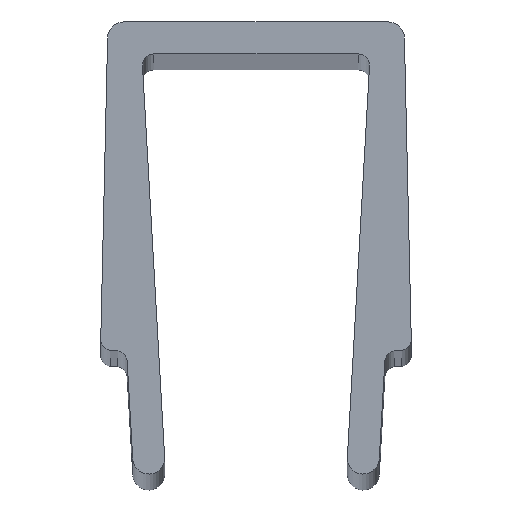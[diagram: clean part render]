
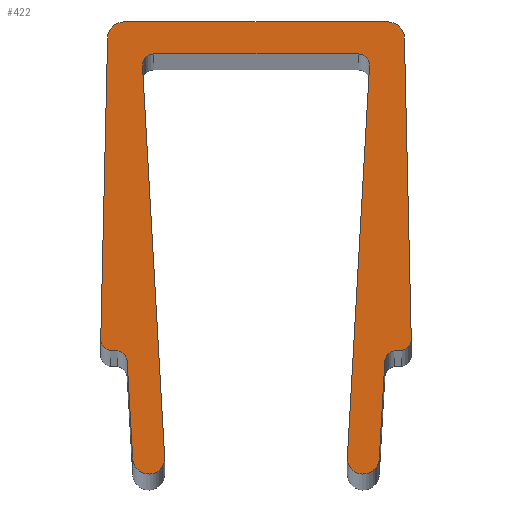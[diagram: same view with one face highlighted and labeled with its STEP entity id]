
A CAD part, top view. The second image highlights one B-rep face of the part: STEP entity #422.
In plain terms, the highlighted planar face has unit normal (0, 0, 1).
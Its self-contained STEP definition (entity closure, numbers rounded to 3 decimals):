
#26=PLANE('',#466);
#48=FACE_OUTER_BOUND('',#70,.T.);
#70=EDGE_LOOP('',(#371,#372,#373,#374,#375,#376,#377,#378,#379,#380,#381,
#382,#383,#384,#385,#386,#387,#388,#389,#390));
#73=LINE('',#605,#113);
#77=LINE('',#617,#117);
#81=LINE('',#629,#121);
#85=LINE('',#641,#125);
#89=LINE('',#653,#129);
#93=LINE('',#665,#133);
#97=LINE('',#677,#137);
#101=LINE('',#689,#141);
#105=LINE('',#701,#145);
#109=LINE('',#712,#149);
#113=VECTOR('',#479,6.595);
#117=VECTOR('',#491,0.165);
#121=VECTOR('',#503,2.145);
#125=VECTOR('',#515,8.58);
#129=VECTOR('',#527,4.471);
#133=VECTOR('',#539,8.58);
#137=VECTOR('',#551,2.145);
#141=VECTOR('',#563,0.165);
#145=VECTOR('',#575,6.595);
#149=VECTOR('',#587,5.8);
#151=CIRCLE('',#426,0.35);
#153=CIRCLE('',#430,0.25);
#155=CIRCLE('',#434,0.25);
#157=CIRCLE('',#438,0.35);
#159=CIRCLE('',#442,0.25);
#161=CIRCLE('',#446,0.25);
#163=CIRCLE('',#450,0.35);
#165=CIRCLE('',#454,0.25);
#167=CIRCLE('',#458,0.25);
#169=CIRCLE('',#462,0.35);
#171=VERTEX_POINT('',#595);
#172=VERTEX_POINT('',#596);
#175=VERTEX_POINT('',#604);
#177=VERTEX_POINT('',#610);
#179=VERTEX_POINT('',#616);
#181=VERTEX_POINT('',#622);
#183=VERTEX_POINT('',#628);
#185=VERTEX_POINT('',#634);
#187=VERTEX_POINT('',#640);
#189=VERTEX_POINT('',#646);
#191=VERTEX_POINT('',#652);
#193=VERTEX_POINT('',#658);
#195=VERTEX_POINT('',#664);
#197=VERTEX_POINT('',#670);
#199=VERTEX_POINT('',#676);
#201=VERTEX_POINT('',#682);
#203=VERTEX_POINT('',#688);
#205=VERTEX_POINT('',#694);
#207=VERTEX_POINT('',#700);
#209=VERTEX_POINT('',#706);
#211=EDGE_CURVE('',#171,#172,#151,.T.);
#215=EDGE_CURVE('',#175,#171,#73,.T.);
#218=EDGE_CURVE('',#177,#175,#153,.T.);
#221=EDGE_CURVE('',#179,#177,#77,.T.);
#224=EDGE_CURVE('',#181,#179,#155,.T.);
#227=EDGE_CURVE('',#183,#181,#81,.T.);
#230=EDGE_CURVE('',#185,#183,#157,.T.);
#233=EDGE_CURVE('',#187,#185,#85,.T.);
#236=EDGE_CURVE('',#189,#187,#159,.T.);
#239=EDGE_CURVE('',#191,#189,#89,.T.);
#242=EDGE_CURVE('',#193,#191,#161,.T.);
#245=EDGE_CURVE('',#195,#193,#93,.T.);
#248=EDGE_CURVE('',#197,#195,#163,.T.);
#251=EDGE_CURVE('',#199,#197,#97,.T.);
#254=EDGE_CURVE('',#201,#199,#165,.T.);
#257=EDGE_CURVE('',#203,#201,#101,.T.);
#260=EDGE_CURVE('',#205,#203,#167,.T.);
#263=EDGE_CURVE('',#207,#205,#105,.T.);
#266=EDGE_CURVE('',#209,#207,#169,.T.);
#269=EDGE_CURVE('',#172,#209,#109,.T.);
#371=ORIENTED_EDGE('',*,*,#269,.F.);
#372=ORIENTED_EDGE('',*,*,#211,.F.);
#373=ORIENTED_EDGE('',*,*,#215,.F.);
#374=ORIENTED_EDGE('',*,*,#218,.F.);
#375=ORIENTED_EDGE('',*,*,#221,.F.);
#376=ORIENTED_EDGE('',*,*,#224,.F.);
#377=ORIENTED_EDGE('',*,*,#227,.F.);
#378=ORIENTED_EDGE('',*,*,#230,.F.);
#379=ORIENTED_EDGE('',*,*,#233,.F.);
#380=ORIENTED_EDGE('',*,*,#236,.F.);
#381=ORIENTED_EDGE('',*,*,#239,.F.);
#382=ORIENTED_EDGE('',*,*,#242,.F.);
#383=ORIENTED_EDGE('',*,*,#245,.F.);
#384=ORIENTED_EDGE('',*,*,#248,.F.);
#385=ORIENTED_EDGE('',*,*,#251,.F.);
#386=ORIENTED_EDGE('',*,*,#254,.F.);
#387=ORIENTED_EDGE('',*,*,#257,.F.);
#388=ORIENTED_EDGE('',*,*,#260,.F.);
#389=ORIENTED_EDGE('',*,*,#263,.F.);
#390=ORIENTED_EDGE('',*,*,#266,.F.);
#422=ADVANCED_FACE('',(#48),#26,.T.);
#426=AXIS2_PLACEMENT_3D('',#597,#471,#472);
#430=AXIS2_PLACEMENT_3D('',#611,#484,#485);
#434=AXIS2_PLACEMENT_3D('',#623,#496,#497);
#438=AXIS2_PLACEMENT_3D('',#635,#508,#509);
#442=AXIS2_PLACEMENT_3D('',#647,#520,#521);
#446=AXIS2_PLACEMENT_3D('',#659,#532,#533);
#450=AXIS2_PLACEMENT_3D('',#671,#544,#545);
#454=AXIS2_PLACEMENT_3D('',#683,#556,#557);
#458=AXIS2_PLACEMENT_3D('',#695,#568,#569);
#462=AXIS2_PLACEMENT_3D('',#707,#580,#581);
#466=AXIS2_PLACEMENT_3D('',#715,#591,#592);
#471=DIRECTION('center_axis',(0.,0.,-1.));
#472=DIRECTION('ref_axis',(0.,-1.,0.));
#479=DIRECTION('',(0.023,1.,0.));
#484=DIRECTION('center_axis',(0.,0.,-1.));
#485=DIRECTION('ref_axis',(1.,-0.023,0.));
#491=DIRECTION('',(-1.,0.,0.));
#496=DIRECTION('center_axis',(0.,0.,1.));
#497=DIRECTION('ref_axis',(0.998,0.056,0.));
#503=DIRECTION('',(-0.056,0.998,0.));
#508=DIRECTION('center_axis',(0.,0.,-1.));
#509=DIRECTION('ref_axis',(0.998,0.056,0.));
#515=DIRECTION('',(0.056,-0.998,0.));
#520=DIRECTION('center_axis',(0.,0.,1.));
#521=DIRECTION('ref_axis',(0.,1.,0.));
#527=DIRECTION('',(-1.,0.,0.));
#532=DIRECTION('center_axis',(0.,0.,1.));
#533=DIRECTION('ref_axis',(0.998,-0.056,0.));
#539=DIRECTION('',(0.056,0.998,0.));
#544=DIRECTION('center_axis',(0.,0.,-1.));
#545=DIRECTION('ref_axis',(0.998,-0.056,0.));
#551=DIRECTION('',(-0.056,-0.998,0.));
#556=DIRECTION('center_axis',(0.,0.,1.));
#557=DIRECTION('ref_axis',(-0.171,0.985,0.));
#563=DIRECTION('',(-1.,0.,0.));
#568=DIRECTION('center_axis',(0.,0.,-1.));
#569=DIRECTION('ref_axis',(-0.171,0.985,0.));
#575=DIRECTION('',(0.023,-1.,0.));
#580=DIRECTION('center_axis',(0.,0.,-1.));
#581=DIRECTION('ref_axis',(-1.,0.002,0.));
#587=DIRECTION('',(1.,0.,0.));
#591=DIRECTION('center_axis',(0.,0.,1.));
#592=DIRECTION('ref_axis',(1.,0.,0.));
#595=CARTESIAN_POINT('',(0.255,9.623,0.));
#596=CARTESIAN_POINT('',(0.605,9.974,0.));
#597=CARTESIAN_POINT('Origin',(0.605,9.624,0.));
#604=CARTESIAN_POINT('',(0.105,3.029,0.));
#605=CARTESIAN_POINT('',(0.105,3.029,0.));
#610=CARTESIAN_POINT('',(0.312,2.777,0.));
#611=CARTESIAN_POINT('Origin',(0.355,3.024,0.));
#616=CARTESIAN_POINT('',(0.477,2.777,0.));
#617=CARTESIAN_POINT('',(0.477,2.777,0.));
#622=CARTESIAN_POINT('',(0.684,2.545,0.));
#623=CARTESIAN_POINT('Origin',(0.434,2.531,0.));
#628=CARTESIAN_POINT('',(0.805,0.404,0.));
#629=CARTESIAN_POINT('',(0.805,0.404,0.));
#634=CARTESIAN_POINT('',(1.504,0.443,0.));
#635=CARTESIAN_POINT('Origin',(1.155,0.424,0.));
#640=CARTESIAN_POINT('',(1.02,9.009,0.));
#641=CARTESIAN_POINT('',(1.02,9.009,0.));
#646=CARTESIAN_POINT('',(1.269,9.274,0.));
#647=CARTESIAN_POINT('Origin',(1.269,9.024,0.));
#652=CARTESIAN_POINT('',(5.74,9.274,0.));
#653=CARTESIAN_POINT('',(5.74,9.274,0.));
#658=CARTESIAN_POINT('',(5.99,9.009,0.));
#659=CARTESIAN_POINT('Origin',(5.74,9.024,0.));
#664=CARTESIAN_POINT('',(5.505,0.443,0.));
#665=CARTESIAN_POINT('',(5.505,0.443,0.));
#670=CARTESIAN_POINT('',(6.204,0.404,0.));
#671=CARTESIAN_POINT('Origin',(5.855,0.424,0.));
#676=CARTESIAN_POINT('',(6.325,2.545,0.));
#677=CARTESIAN_POINT('',(6.325,2.545,0.));
#682=CARTESIAN_POINT('',(6.532,2.777,0.));
#683=CARTESIAN_POINT('Origin',(6.575,2.531,0.));
#688=CARTESIAN_POINT('',(6.697,2.777,0.));
#689=CARTESIAN_POINT('',(6.697,2.777,0.));
#694=CARTESIAN_POINT('',(6.905,3.029,0.));
#695=CARTESIAN_POINT('Origin',(6.655,3.024,0.));
#700=CARTESIAN_POINT('',(6.755,9.623,0.));
#701=CARTESIAN_POINT('',(6.755,9.623,0.));
#706=CARTESIAN_POINT('',(6.405,9.974,0.));
#707=CARTESIAN_POINT('Origin',(6.405,9.624,0.));
#712=CARTESIAN_POINT('',(0.605,9.974,0.));
#715=CARTESIAN_POINT('Origin',(3.505,5.835,0.));
